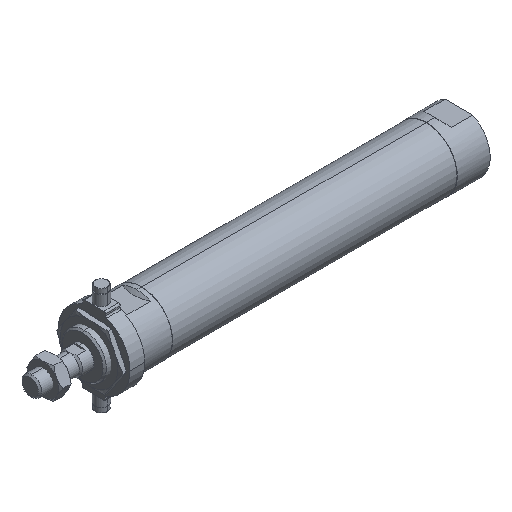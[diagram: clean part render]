
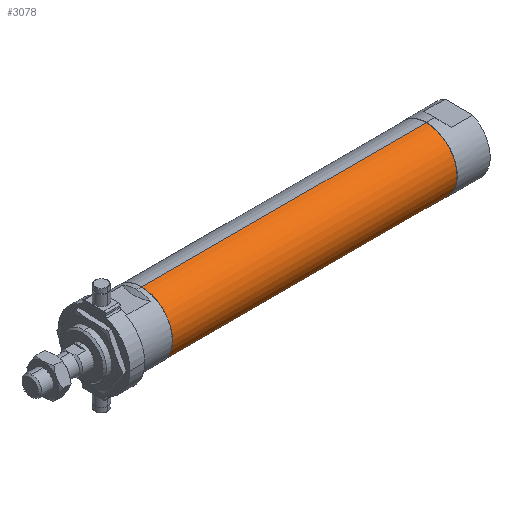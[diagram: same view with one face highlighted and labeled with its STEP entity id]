
A CAD part, isometric view. The second image highlights one B-rep face of the part: STEP entity #3078.
In plain terms, the highlighted cylindrical face has radius 18.8 mm (diameter 37.6 mm), a partial arc.
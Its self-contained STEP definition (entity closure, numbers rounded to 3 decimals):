
#198 = VERTEX_POINT ( 'NONE', #2885 ) ;
#267 = VECTOR ( 'NONE', #1144, 1000. ) ;
#358 = DIRECTION ( 'NONE',  ( -1., 0., 0. ) ) ;
#416 = VECTOR ( 'NONE', #2156, 1000. ) ;
#678 = ORIENTED_EDGE ( 'NONE', *, *, #1228, .T. ) ;
#687 = VERTEX_POINT ( 'NONE', #4050 ) ;
#816 = CIRCLE ( 'NONE', #2805, 18.8 ) ;
#836 = EDGE_CURVE ( 'NONE', #3579, #198, #816, .T. ) ;
#1079 = FACE_OUTER_BOUND ( 'NONE', #1411, .T. ) ;
#1129 = LINE ( 'NONE', #1177, #416 ) ;
#1144 = DIRECTION ( 'NONE',  ( -1., 0., 0. ) ) ;
#1173 = ORIENTED_EDGE ( 'NONE', *, *, #3549, .T. ) ;
#1177 = CARTESIAN_POINT ( 'NONE',  ( -1.784, 0., -18.8 ) ) ;
#1211 = LINE ( 'NONE', #1857, #267 ) ;
#1228 = EDGE_CURVE ( 'NONE', #687, #198, #1211, .T. ) ;
#1411 = EDGE_LOOP ( 'NONE', ( #2581, #1173, #678, #4356 ) ) ;
#1522 = AXIS2_PLACEMENT_3D ( 'NONE', #2432, #3137, #3860 ) ;
#1753 = DIRECTION ( 'NONE',  ( 0., 0., 1. ) ) ;
#1857 = CARTESIAN_POINT ( 'NONE',  ( -1.784, 0., 18.8 ) ) ;
#2127 = DIRECTION ( 'NONE',  ( -1., 0., 0. ) ) ;
#2137 = CARTESIAN_POINT ( 'NONE',  ( 68., 0., 0. ) ) ;
#2156 = DIRECTION ( 'NONE',  ( -1., 0., 0. ) ) ;
#2277 = VERTEX_POINT ( 'NONE', #3652 ) ;
#2432 = CARTESIAN_POINT ( 'NONE',  ( -1.784, 0., 0. ) ) ;
#2494 = DIRECTION ( 'NONE',  ( 0., 0., 1. ) ) ;
#2581 = ORIENTED_EDGE ( 'NONE', *, *, #3641, .F. ) ;
#2654 = CYLINDRICAL_SURFACE ( 'NONE', #1522, 18.8 ) ;
#2805 = AXIS2_PLACEMENT_3D ( 'NONE', #2137, #2127, #2494 ) ;
#2885 = CARTESIAN_POINT ( 'NONE',  ( 68., 0., 18.8 ) ) ;
#3078 = ADVANCED_FACE ( 'NONE', ( #1079 ), #2654, .T. ) ;
#3137 = DIRECTION ( 'NONE',  ( -1., 0., 0. ) ) ;
#3514 = CIRCLE ( 'NONE', #3781, 18.8 ) ;
#3549 = EDGE_CURVE ( 'NONE', #2277, #687, #3514, .T. ) ;
#3579 = VERTEX_POINT ( 'NONE', #4206 ) ;
#3641 = EDGE_CURVE ( 'NONE', #2277, #3579, #1129, .T. ) ;
#3652 = CARTESIAN_POINT ( 'NONE',  ( 242., 0., -18.8 ) ) ;
#3781 = AXIS2_PLACEMENT_3D ( 'NONE', #3855, #358, #1753 ) ;
#3855 = CARTESIAN_POINT ( 'NONE',  ( 242., 0., 0. ) ) ;
#3860 = DIRECTION ( 'NONE',  ( 0., 0., 1. ) ) ;
#4050 = CARTESIAN_POINT ( 'NONE',  ( 242., 0., 18.8 ) ) ;
#4206 = CARTESIAN_POINT ( 'NONE',  ( 68., 0., -18.8 ) ) ;
#4356 = ORIENTED_EDGE ( 'NONE', *, *, #836, .F. ) ;
